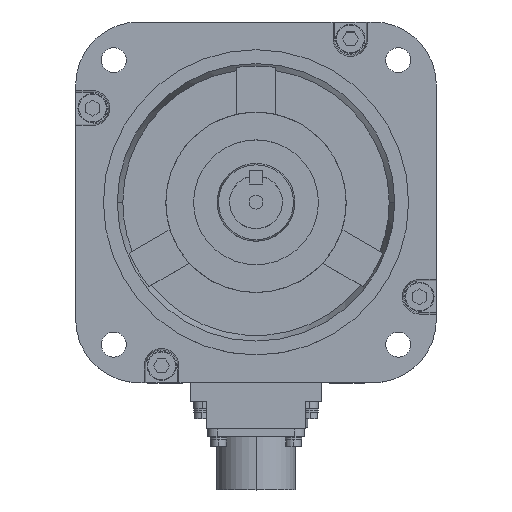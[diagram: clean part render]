
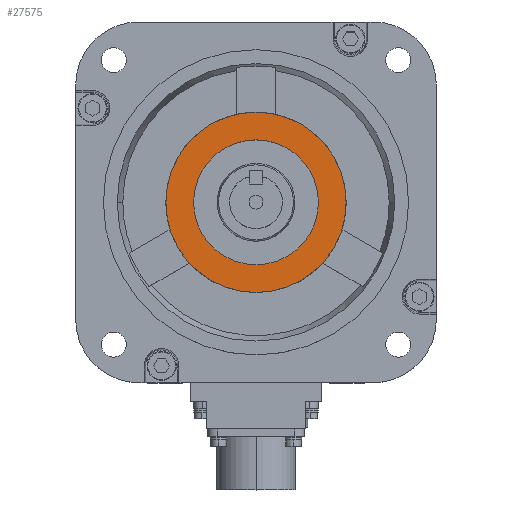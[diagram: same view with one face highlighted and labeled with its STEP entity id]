
A CAD part, top view. The second image highlights one B-rep face of the part: STEP entity #27575.
In plain terms, the highlighted planar face has unit normal (0, 0, 1).
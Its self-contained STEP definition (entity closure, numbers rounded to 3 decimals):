
#3670 = EDGE_CURVE ( 'NONE', #27610, #27533, #14000, .T. ) ;
#7913 = VERTEX_POINT ( 'NONE', #17216 ) ;
#8100 = VERTEX_POINT ( 'NONE', #17499 ) ;
#8386 = ORIENTED_EDGE ( 'NONE', *, *, #3670, .T. ) ;
#8518 = EDGE_CURVE ( 'NONE', #7913, #8100, #18330, .T. ) ;
#13996 = DIRECTION ( 'NONE',  ( 1., 0., 0. ) ) ;
#13997 = DIRECTION ( 'NONE',  ( 0., 0., 1. ) ) ;
#13998 = CARTESIAN_POINT ( 'NONE',  ( 0., 0., 6. ) ) ;
#13999 = AXIS2_PLACEMENT_3D ( 'NONE', #13998, #13997, #13996 ) ;
#14000 = CIRCLE ( 'NONE', #13999, 32.5 ) ;
#17216 = CARTESIAN_POINT ( 'NONE',  ( -22.5, 0., 6. ) ) ;
#17499 = CARTESIAN_POINT ( 'NONE',  ( 22.5, 0., 6. ) ) ;
#18326 = DIRECTION ( 'NONE',  ( 1., 0., 0. ) ) ;
#18327 = DIRECTION ( 'NONE',  ( 0., 0., 1. ) ) ;
#18328 = CARTESIAN_POINT ( 'NONE',  ( 0., 0., 6. ) ) ;
#18329 = AXIS2_PLACEMENT_3D ( 'NONE', #18328, #18327, #18326 ) ;
#18330 = CIRCLE ( 'NONE', #18329, 22.5 ) ;
#23636 = CARTESIAN_POINT ( 'NONE',  ( 32.5, 0., 6. ) ) ;
#23671 = DIRECTION ( 'NONE',  ( 1., 0., 0. ) ) ;
#23672 = DIRECTION ( 'NONE',  ( 0., 0., 1. ) ) ;
#23673 = CARTESIAN_POINT ( 'NONE',  ( 0., 0., 6. ) ) ;
#23674 = AXIS2_PLACEMENT_3D ( 'NONE', #23673, #23672, #23671 ) ;
#23675 = PLANE ( 'NONE',  #23674 ) ;
#23676 = FACE_OUTER_BOUND ( 'NONE', #27287, .T. ) ;
#23677 = FACE_BOUND ( 'NONE', #27400, .T. ) ;
#23706 = DIRECTION ( 'NONE',  ( 1., 0., 0. ) ) ;
#23707 = DIRECTION ( 'NONE',  ( 0., 0., 1. ) ) ;
#23708 = AXIS2_PLACEMENT_3D ( 'NONE', #23714, #23707, #23706 ) ;
#23709 = CIRCLE ( 'NONE', #23708, 22.5 ) ;
#23714 = CARTESIAN_POINT ( 'NONE',  ( 0., 0., 6. ) ) ;
#23726 = CARTESIAN_POINT ( 'NONE',  ( -32.5, 0., 6. ) ) ;
#26286 = DIRECTION ( 'NONE',  ( 1., 0., 0. ) ) ;
#26287 = DIRECTION ( 'NONE',  ( 0., 0., 1. ) ) ;
#26288 = CARTESIAN_POINT ( 'NONE',  ( 0., 0., 6. ) ) ;
#26289 = AXIS2_PLACEMENT_3D ( 'NONE', #26288, #26287, #26286 ) ;
#26290 = CIRCLE ( 'NONE', #26289, 32.5 ) ;
#27262 = ORIENTED_EDGE ( 'NONE', *, *, #29062, .T. ) ;
#27286 = ORIENTED_EDGE ( 'NONE', *, *, #8518, .F. ) ;
#27287 = EDGE_LOOP ( 'NONE', ( #27262, #8386 ) ) ;
#27400 = EDGE_LOOP ( 'NONE', ( #27763, #27286 ) ) ;
#27533 = VERTEX_POINT ( 'NONE', #23636 ) ;
#27575 = ADVANCED_FACE ( 'NONE', ( #23677, #23676 ), #23675, .T. ) ;
#27591 = EDGE_CURVE ( 'NONE', #8100, #7913, #23709, .T. ) ;
#27610 = VERTEX_POINT ( 'NONE', #23726 ) ;
#27763 = ORIENTED_EDGE ( 'NONE', *, *, #27591, .F. ) ;
#29062 = EDGE_CURVE ( 'NONE', #27533, #27610, #26290, .T. ) ;
